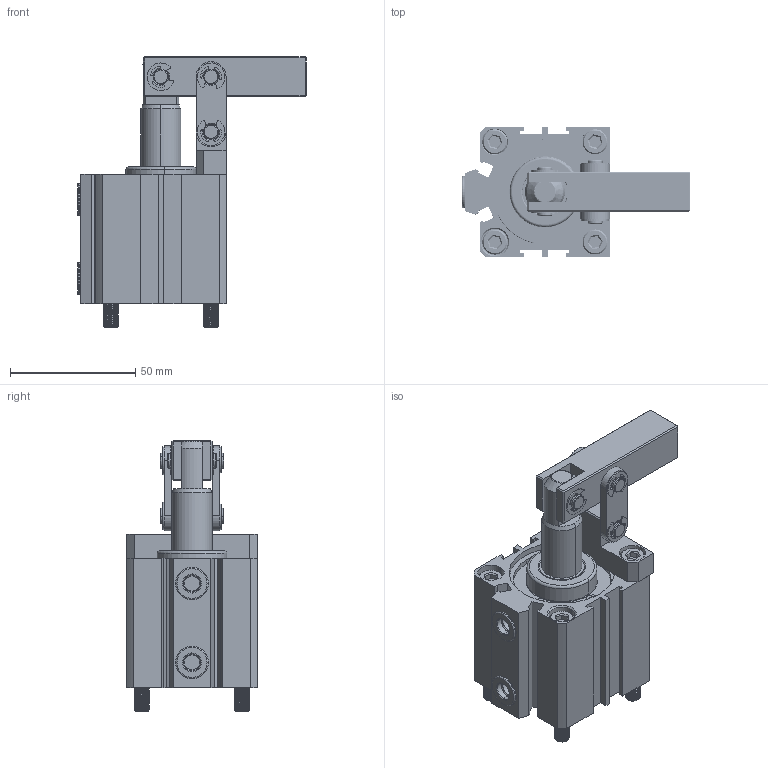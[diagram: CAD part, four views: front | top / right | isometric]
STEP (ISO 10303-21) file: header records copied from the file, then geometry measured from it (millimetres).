
FILE_DESCRIPTION(('FreeCAD Model'),'2;1');
FILE_NAME('Open CASCADE Shape Model','2021-08-17T17:25:26',('Author'),( ''),'Open CASCADE STEP processor 7.4','FreeCAD','Unknown');
FILE_SCHEMA(('AUTOMOTIVE_DESIGN { 1 0 10303 214 1 1 1 1 }'));
Length unit declared in the file: millimetre
Products named in the file (17): PLP-40; DESETEC001; DESETEC002; DESETEC003; DESETEC004; DESETEC006; DESETEC007; DESETEC008; DESETEC009; DESETEC010; DESETEC011; DESETEC012; DESETEC013; DESETEC017; DESETEC018; DESETEC023; DESETEC026
Assembly tree (27 placements, depth 2):
  PLP-40
    DESETEC001  x2
    DESETEC002
    DESETEC003  x2
    DESETEC004  x6
    DESETEC006
    DESETEC007
    DESETEC008
    DESETEC009  x2
    DESETEC010  x2
    DESETEC011
    DESETEC012
    DESETEC013
    DESETEC017  x2
    DESETEC018  x2
    DESETEC023
    DESETEC026
Bounding box: 91.2 x 52 x 108 mm (x, y, z)
Volume: 119769.8 mm3; surface area: 72543.5 mm2
Topology: 27 solids, 27 shells, 1273 faces, 3237 edges, 2077 vertices
Faces by surface type: cylinder 733, plane 319, cone 106, torus 96, bspline 19
Entity records: 80250 total; most frequent: CARTESIAN_POINT 41193, DIRECTION 7016, ORIENTED_EDGE 3978, PCURVE 3978, DEFINITIONAL_REPRESENTATION 3978, LINE 3904, VECTOR 3904, EDGE_CURVE 1989
